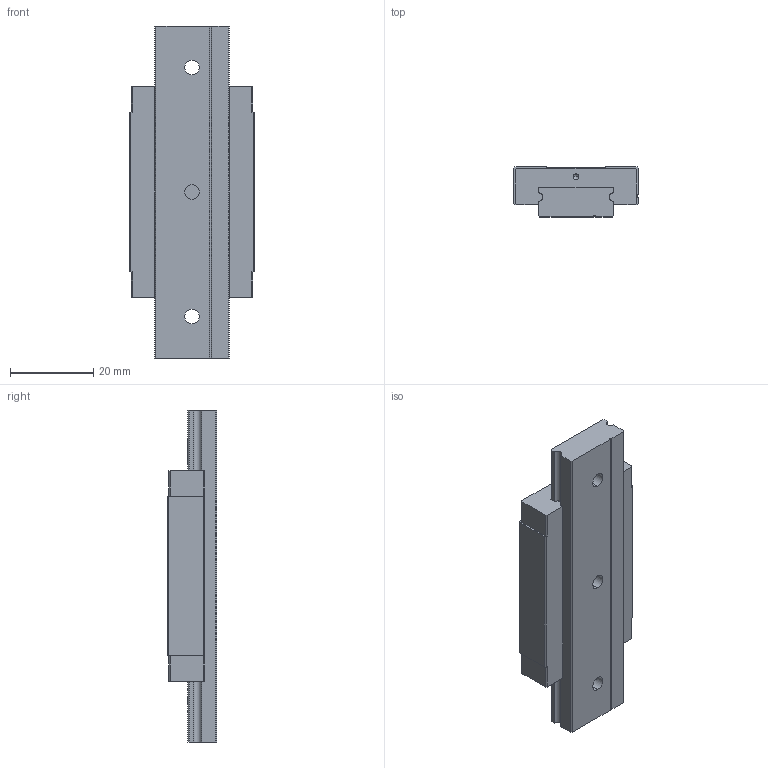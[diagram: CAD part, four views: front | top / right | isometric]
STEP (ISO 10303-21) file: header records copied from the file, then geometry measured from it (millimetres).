
FILE_DESCRIPTION (( 'STEP AP214' ), '1' );
FILE_NAME ('7.1062 Lineaarikelkka MTW9H.STEP', '2026-03-16T07:52:26', ( '' ), ( '' ), 'SwSTEP 2.0', 'SolidWorks 2025', '' );
FILE_SCHEMA (( 'AUTOMOTIVE_DESIGN' ));
Length unit declared in the file: millimetre
Products named in the file (1): 7.1062 Lineaarikelkka MTW9H
Bounding box: 30 x 12 x 80 mm (x, y, z)
Volume: 19207.8 mm3; surface area: 9677.2 mm2
Topology: 2 solids, 2 shells, 202 faces, 537 edges, 348 vertices
Faces by surface type: plane 135, cylinder 33, bspline 22, cone 12
Entity records: 9853 total; most frequent: CARTESIAN_POINT 2710, ORIENTED_EDGE 1050, DIRECTION 909, EDGE_CURVE 525, VECTOR 415, LINE 415, VERTEX_POINT 348, AXIS2_PLACEMENT_3D 247
